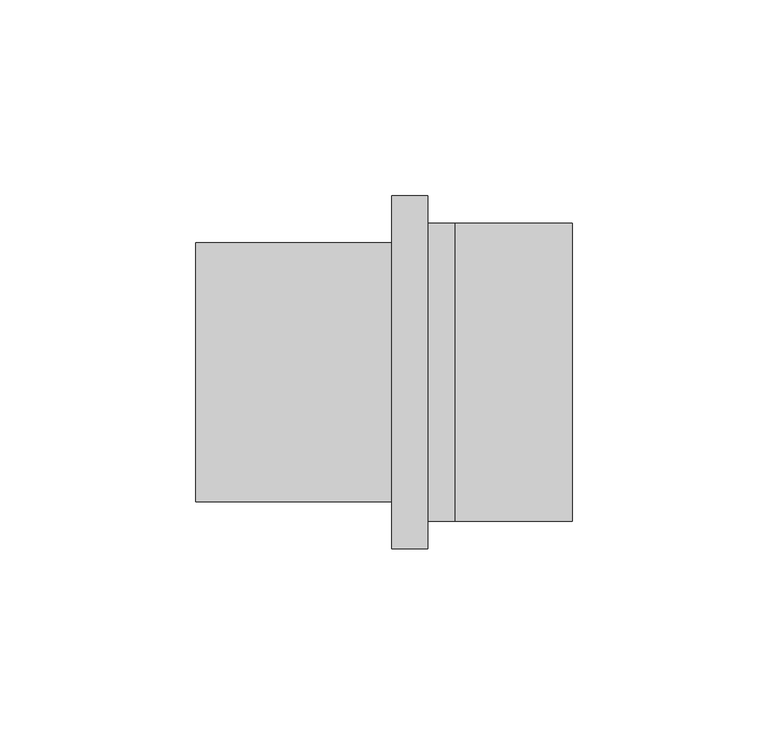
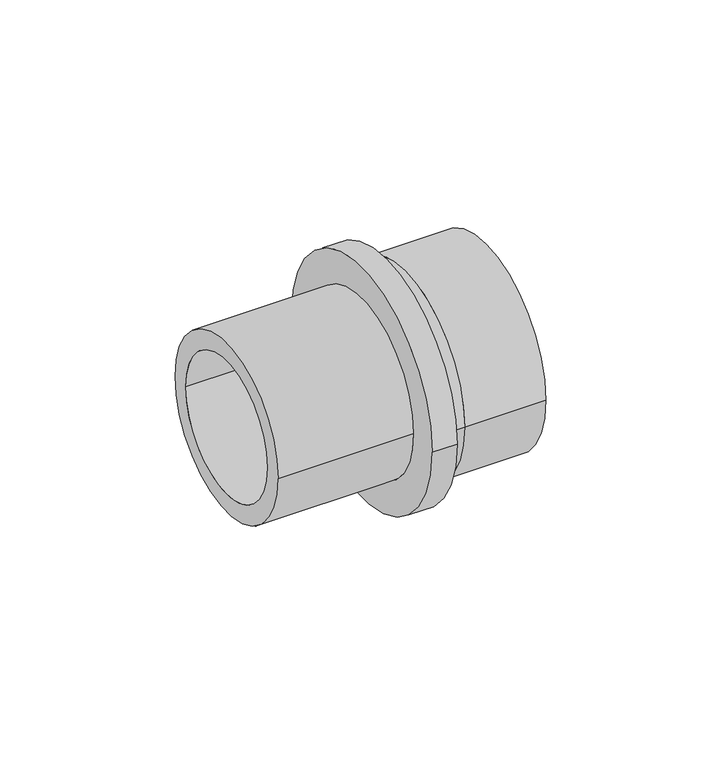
"""IFC4 building model written with IfcOpenShell, lengths in millimetres: pipe fitting geometry, Adapter with welding end : A welding RX."""

from ifc_helpers import new_model, si_unit, point, frame, origin, origin_2d, place, context, project, spatial, polyline, circle_curve, trimmed, segment, composite_curve, outline, extrude, source, transform, mapped, element, save
from ifc_brep_helpers import plane_surface, cylinder_surface, revolved_surface, advanced_brep


def pipe_fitting_526a7da2(model_context):
    return source(origin(), model_context, "Body", "SolidModel", [
        advanced_brep(
        [(0.0, 38.0, 0.0), (0.0, -38.0, 0.0), (-6.8, -38.0, 0.0), (-6.8, 38.0, 0.0), (-6.8, 34.95, 0.0), (-6.8, -34.95, 0.0), (0.0, -34.95, 0.0), (0.0, 34.95, 0.0), (-66.0, 26.0, 0.0), (-66.0, -26.0, 0.0), (-6.8, -26.0, 0.0), (-6.8, 26.0, 0.0), (-16.0, 33.0, 0.0), (-16.0, -33.0, 0.0), (-66.0, -33.0, 0.0), (-66.0, 33.0, 0.0), (-6.8, 45.0, 0.0), (-6.8, -45.0, 0.0), (-16.0, -45.0, 0.0), (-16.0, 45.0, 0.0)],
        [
            (0, 1, circle_curve(frame((0.0, 0.0, 0.0), z_axis=(-1.0, 0.0, 0.0), x_axis=(0.0, -1.0, 0.0)), 38.0)),
            (1, 2),
            (2, 3, circle_curve(frame((-6.8, 0.0, 0.0), z_axis=(1.0, 0.0, 0.0), x_axis=(0.0, -1.0, 0.0)), 38.0)),
            (3, 0),
            (4, 5, circle_curve(frame((-6.8, 0.0, 0.0), z_axis=(-1.0, 0.0, 0.0), x_axis=(0.0, -1.0, 0.0)), 34.95)),
            (5, 6),
            (6, 7, circle_curve(frame((0.0, 0.0, 0.0), z_axis=(1.0, 0.0, 0.0), x_axis=(0.0, -1.0, 0.0)), 34.95)),
            (7, 4),
            (8, 9, circle_curve(frame((-66.0, 0.0, 0.0), z_axis=(-1.0, 0.0, 0.0), x_axis=(0.0, -1.0, 0.0)), 26.0)),
            (9, 10),
            (10, 11, circle_curve(frame((-6.8, 0.0, 0.0), z_axis=(1.0, 0.0, 0.0), x_axis=(0.0, -1.0, 0.0)), 26.0)),
            (11, 8),
            (12, 13, circle_curve(frame((-16.0, 0.0, 0.0), z_axis=(-1.0, 0.0, 0.0), x_axis=(0.0, -1.0, 0.0)), 33.0)),
            (13, 14),
            (14, 15, circle_curve(frame((-66.0, 0.0, 0.0), z_axis=(1.0, 0.0, 0.0), x_axis=(0.0, -1.0, 0.0)), 33.0)),
            (15, 12),
            (16, 17, circle_curve(frame((-6.8, 0.0, 0.0), z_axis=(-1.0, 0.0, 0.0), x_axis=(0.0, -1.0, 0.0)), 45.0)),
            (17, 18),
            (18, 19, circle_curve(frame((-16.0, 0.0, 0.0), z_axis=(1.0, 0.0, 0.0), x_axis=(0.0, -1.0, 0.0)), 45.0)),
            (19, 16),
            (16, 17, circle_curve(frame((-6.8, 0.0, 0.0), z_axis=(1.0, 0.0, 0.0), x_axis=(0.0, 1.0, 0.0)), 45.0)),
            (2, 3, circle_curve(frame((-6.8, 0.0, 0.0), z_axis=(-1.0, 0.0, 0.0), x_axis=(0.0, 1.0, 0.0)), 38.0)),
            (1, 0, circle_curve(frame((0.0, 0.0, 0.0), z_axis=(-1.0, 0.0, 0.0), x_axis=(0.0, 1.0, 0.0)), 38.0)),
            (6, 7, circle_curve(frame((0.0, 0.0, 0.0), z_axis=(-1.0, 0.0, 0.0), x_axis=(0.0, 1.0, 0.0)), 34.95)),
            (5, 4, circle_curve(frame((-6.8, 0.0, 0.0), z_axis=(-1.0, 0.0, 0.0), x_axis=(0.0, 1.0, 0.0)), 34.95)),
            (10, 11, circle_curve(frame((-6.8, 0.0, 0.0), z_axis=(-1.0, 0.0, 0.0), x_axis=(0.0, 1.0, 0.0)), 26.0)),
            (9, 8, circle_curve(frame((-66.0, 0.0, 0.0), z_axis=(-1.0, 0.0, 0.0), x_axis=(0.0, 1.0, 0.0)), 26.0)),
            (14, 15, circle_curve(frame((-66.0, 0.0, 0.0), z_axis=(-1.0, 0.0, 0.0), x_axis=(0.0, 1.0, 0.0)), 33.0)),
            (13, 12, circle_curve(frame((-16.0, 0.0, 0.0), z_axis=(-1.0, 0.0, 0.0), x_axis=(0.0, 1.0, 0.0)), 33.0)),
            (18, 19, circle_curve(frame((-16.0, 0.0, 0.0), z_axis=(-1.0, 0.0, 0.0), x_axis=(0.0, 1.0, 0.0)), 45.0)),
        ],
        [
            cylinder_surface(frame((0.0, 0.0, 0.0), z_axis=(1.0, 0.0, 0.0), x_axis=(0.0, -1.0, 0.0)), 38.0),
            revolved_surface(polyline([(0.0, -34.95, 0.0), (-6.8, -34.95, 0.0)]), (0.0, 0.0, 0.0), (1.0, 0.0, 0.0)),
            revolved_surface(polyline([(-6.8, -26.0, 0.0), (-66.0, -26.0, 0.0)]), (0.0, 0.0, 0.0), (1.0, 0.0, 0.0)),
            cylinder_surface(frame((0.0, 0.0, 0.0), z_axis=(1.0, 0.0, 0.0), x_axis=(0.0, -1.0, 0.0)), 33.0),
            cylinder_surface(frame((0.0, 0.0, 0.0), z_axis=(1.0, 0.0, 0.0), x_axis=(0.0, -1.0, 0.0)), 45.0),
            plane_surface(frame((-6.8, 0.0, 0.0), z_axis=(1.0, 0.0, 0.0), x_axis=(0.0, 1.0, 0.0))),
            cylinder_surface(frame((0.0, 0.0, 0.0), z_axis=(1.0, 0.0, 0.0), x_axis=(0.0, 1.0, 0.0)), 38.0),
            plane_surface(frame((0.0, 0.0, 0.0), z_axis=(1.0, 0.0, 0.0), x_axis=(0.0, 1.0, 0.0))),
            revolved_surface(polyline([(0.0, 34.95, 0.0), (-6.8, 34.95, 0.0)]), (0.0, 0.0, 0.0), (1.0, 0.0, 0.0)),
            revolved_surface(polyline([(-6.8, 26.0, 0.0), (-66.0, 26.0, 0.0)]), (0.0, 0.0, 0.0), (1.0, 0.0, 0.0)),
            plane_surface(frame((-66.0, 0.0, 0.0), z_axis=(-1.0, 0.0, 0.0), x_axis=(0.0, 1.0, 0.0))),
            cylinder_surface(frame((0.0, 0.0, 0.0), z_axis=(1.0, 0.0, 0.0), x_axis=(0.0, 1.0, 0.0)), 33.0),
            plane_surface(frame((-16.0, 0.0, 0.0), z_axis=(-1.0, 0.0, 0.0), x_axis=(0.0, 1.0, 0.0))),
            cylinder_surface(frame((0.0, 0.0, 0.0), z_axis=(1.0, 0.0, 0.0), x_axis=(0.0, 1.0, 0.0)), 45.0),
        ],
        [
            (0, [[1, 2, 3, 4]]),
            (1, [[5, 6, 7, 8]]),
            (2, [[9, 10, 11, 12]]),
            (3, [[13, 14, 15, 16]]),
            (4, [[17, 18, 19, 20]]),
            (5, [[21, -17], [22, -3]]),
            (6, [[23, -4, -22, -2]]),
            (7, [[-23, -1], [24, -7]]),
            (8, [[25, -8, -24, -6]]),
            (5, [[-25, -5], [26, -11]]),
            (9, [[27, -12, -26, -10]]),
            (10, [[28, -15], [-27, -9]]),
            (11, [[29, -16, -28, -14]]),
            (12, [[30, -19], [-29, -13]]),
            (13, [[-21, -20, -30, -18]]),
        ],
    ),
        extrude(outline(composite_curve([segment(trimmed(circle_curve(origin_2d(), 38.0), [point((-38.0, 0.0))], [point((38.0, 0.0))], False, "CARTESIAN"), True, "CONTINUOUS"), segment(trimmed(circle_curve(origin_2d(), 38.0), [point((38.0, 0.0))], [point((-38.0, 0.0))], False, "CARTESIAN"), True, "CONTINUOUS")], self_intersect=False), holes=[composite_curve([segment(trimmed(circle_curve(origin_2d(), 34.95), [point((34.95, 0.0))], [point((-34.95, 0.0))], True, "CARTESIAN"), True, "CONTINUOUS"), segment(trimmed(circle_curve(origin_2d(), 34.95), [point((-34.95, 0.0))], [point((34.95, 0.0))], True, "CARTESIAN"), True, "CONTINUOUS")], self_intersect=False)]), frame((0.0, 0.0, 0.0), z_axis=(1.0, 0.0, 0.0), x_axis=(0.0, 1.0, 0.0)), (0.0, 0.0, 1.0), 30.0),
    ])


if __name__ == "__main__":
    model = new_model("IFC4")
    model_context = context("Model", 3, world=origin())
    ifc_project = project(units=[si_unit("LENGTHUNIT", "METRE", prefix="MILLI")], contexts=[model_context])
    site = spatial("IfcSite", under=ifc_project)
    building = spatial("IfcBuilding", under=site)
    placement = place(None, origin())
    pipe_fitting_shape = pipe_fitting_526a7da2(model_context)
    element("IfcPipeFitting", 1, ObjectType="Adapter with welding end : A welding RX", at=placement, inside=building, context=model_context, shape_type="MappedRepresentation", body=[
        mapped(pipe_fitting_shape, transform((0.0, 0.0, 0.0), x_axis=(1.0, 0.0, 0.0), y_axis=(0.0, 1.0, 0.0), z_axis=(0.0, 0.0, 1.0))),
    ])
    save(model, "model.ifc")
